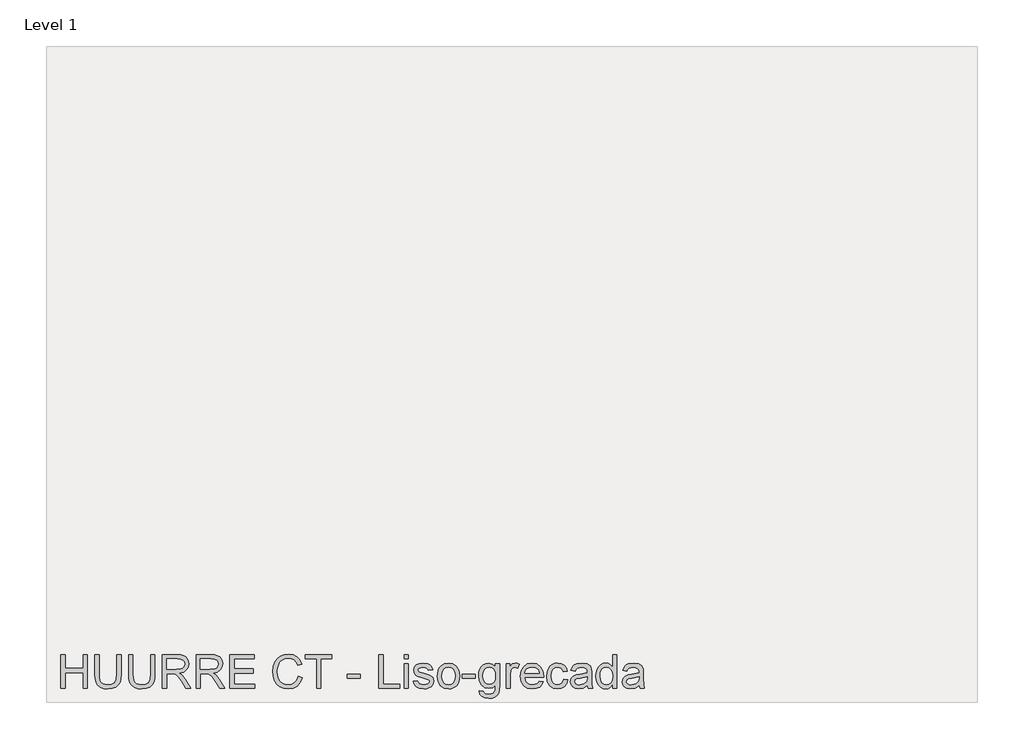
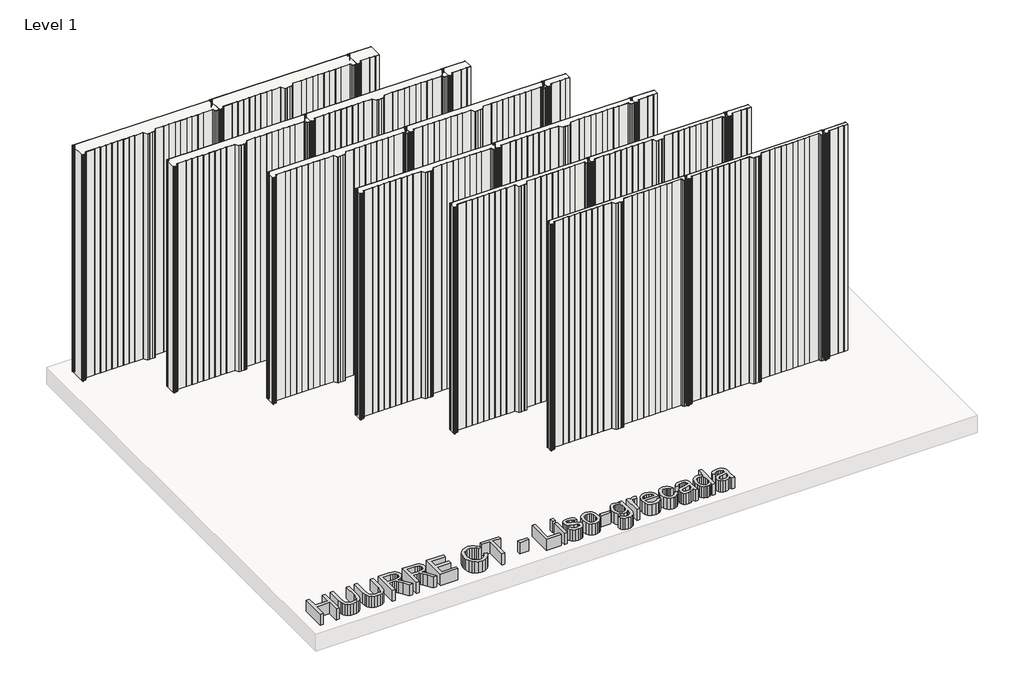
# One storey, part 2 of 2: 6 slabs, 1 proxy.
"""IFC4 building model written with IfcOpenShell, lengths in millimetres."""

from ifc_helpers import new_model, si_unit, origin, origin_with_axes, place, context, project, spatial, polyline, outline, extrude, transform, mapped, element, save
from components import hi_quadcore2_0ct_hi_quadcore_2_0_ct_120_liso_grecada_508893d8, hi_quadcore2_0ct_hi_quadcore_2_0_ct_120_liso_grecada_2a2bc950, hi_quadcore2_0ct_hi_quadcore_2_0_ct_120_liso_grecada_b9fa27ae, hi_quadcore2_0ct_hi_quadcore_2_0_ct_120_liso_grecada_d8a82dec, hi_quadcore2_0ct_hi_quadcore_2_0_ct_30_liso_grecada_8454063f, hi_quadcore2_0ct_hi_quadcore_2_0_ct_30_liso_grecada_a04230f8, hi_quadcore2_0ct_hi_quadcore_2_0_ct_30_liso_grecada_7c60fad7, hi_quadcore2_0ct_hi_quadcore_2_0_ct_30_liso_grecada_55503dc5, hi_quadcore2_0ct_hi_quadcore_2_0_ct_40_liso_grecada_d7bc8760, hi_quadcore2_0ct_hi_quadcore_2_0_ct_40_liso_grecada_3cf4d14c, hi_quadcore2_0ct_hi_quadcore_2_0_ct_40_liso_grecada_4fc66922, hi_quadcore2_0ct_hi_quadcore_2_0_ct_40_liso_grecada_08016a3a, hi_quadcore2_0ct_hi_quadcore_2_0_ct_50_liso_grecada_e1955714, hi_quadcore2_0ct_hi_quadcore_2_0_ct_50_liso_grecada_af61549e, hi_quadcore2_0ct_hi_quadcore_2_0_ct_50_liso_grecada_d0412549, hi_quadcore2_0ct_hi_quadcore_2_0_ct_50_liso_grecada_a40b4139, hi_quadcore2_0ct_hi_quadcore_2_0_ct_60_liso_grecada_41cce4d6, hi_quadcore2_0ct_hi_quadcore_2_0_ct_60_liso_grecada_c3092838, hi_quadcore2_0ct_hi_quadcore_2_0_ct_60_liso_grecada_371870d8, hi_quadcore2_0ct_hi_quadcore_2_0_ct_60_liso_grecada_84c94ab4, hi_quadcore2_0ct_hi_quadcore_2_0_ct_80_liso_grecada_a5f406dc, hi_quadcore2_0ct_hi_quadcore_2_0_ct_80_liso_grecada_12a7aa08, hi_quadcore2_0ct_hi_quadcore_2_0_ct_80_liso_grecada_cbc21f39, hi_quadcore2_0ct_hi_quadcore_2_0_ct_80_liso_grecada_df26bcd7

model = new_model("IFC4")

# Units and contexts
model_context = context("Model", 3, world=origin())
ifc_project = project(units=[si_unit("LENGTHUNIT", "METRE", prefix="MILLI")], contexts=[model_context])

# Site, building, storey
site = spatial("IfcSite", under=ifc_project)
building = spatial("IfcBuilding", under=site)
storey = spatial("IfcBuildingStorey", under=building, Name="Level 1", Elevation=0.0)

# Proxy
placement = place(None, origin())
element("IfcBuildingElementProxy", 1, Name="200mm Arial", ObjectType="200mm Arial", at=placement, inside=storey, context=model_context, shape_type="SweptSolid", body=[
    extrude(outline(polyline([(12680.8097426, 798.4307978), (12680.8097426, 999.3434181), (12705.9238201, 999.3434181), (12705.9238201, 917.7226661), (12812.6586497, 917.7226661), (12812.6586497, 999.3434181), (12837.7727272, 999.3434181), (12837.7727272, 798.4307978), (12812.6586497, 798.4307978), (12812.6586497, 892.6085886), (12705.9238201, 892.6085886), (12705.9238201, 798.4307978), (12680.8097426, 798.4307978)])), origin_with_axes(), (0.0, 0.0, 1.0), 100.0),
    extrude(outline(polyline([(13013.57127, 999.3434181), (13038.6853475, 999.3434181), (13038.6853475, 883.4360642), (13036.9808276, 856.2925043), (13031.8672679, 835.3906756), (13022.3145987, 819.2651815), (13007.2927506, 806.4506253), (12986.7649353, 798.0813099), (12960.6943645, 795.2915381), (12935.1940109, 797.7195593), (12914.807217, 805.0036228), (12899.5278515, 816.8923426), (12889.3497829, 833.1343327), (12883.6292179, 854.9190782), (12881.7223629, 883.4360642), (12881.7223629, 999.3434181), (12906.8364404, 999.3434181), (12906.8364404, 884.318981), (12908.0749765, 861.7494205), (12911.7905846, 846.034728), (12918.5228252, 835.1515523), (12928.8112583, 827.0765425), (12942.2266884, 822.0733474), (12958.3399198, 820.4056157), (12983.883193, 823.7042909), (13000.8670784, 833.6003165), (13010.3952221, 852.8773331), (13013.57127, 884.318981), (13013.57127, 999.3434181)])), origin_with_axes(), (0.0, 0.0, 1.0), 100.0),
    extrude(outline(polyline([(13214.4838903, 999.3434181), (13239.5979678, 999.3434181), (13239.5979678, 883.4360642), (13237.8934479, 856.2925043), (13232.7798882, 835.3906756), (13223.227219, 819.2651815), (13208.2053709, 806.4506253), (13187.6775556, 798.0813099), (13161.6069848, 795.2915381), (13136.1066312, 797.7195593), (13115.7198373, 805.0036228), (13100.4404718, 816.8923426), (13090.2624032, 833.1343327), (13084.5418382, 854.9190782), (13082.6349832, 883.4360642), (13082.6349832, 999.3434181), (13107.7490607, 999.3434181), (13107.7490607, 884.318981), (13108.9875968, 861.7494205), (13112.7032049, 846.034728), (13119.4354455, 835.1515523), (13129.7238786, 827.0765425), (13143.1393087, 822.0733474), (13159.2525401, 820.4056157), (13184.7958133, 823.7042909), (13201.7796987, 833.6003165), (13211.3078424, 852.8773331), (13214.4838903, 884.318981), (13214.4838903, 999.3434181)])), origin_with_axes(), (0.0, 0.0, 1.0), 100.0),
    extrude(outline(polyline([(13283.5476035, 798.4307978), (13283.5476035, 999.3434181), (13370.1224997, 999.3434181), (13393.3910359, 997.9883861), (13410.319739, 993.92329), (13422.6928368, 986.4184973), (13432.2945569, 974.7443754), (13438.4565803, 960.2682189), (13440.5105881, 944.3573226), (13437.1076797, 924.5652712), (13426.8989543, 908.1577342), (13409.5778437, 896.127993), (13384.8377795, 889.4693289), (13399.1116009, 878.7271746), (13419.467738, 852.8773331), (13452.969525, 798.4307978), (13423.7842201, 798.4307978), (13397.6400729, 840.0750397), (13378.7554639, 867.6416638), (13365.4871866, 880.6646865), (13353.5432844, 885.4471524), (13338.9751574, 886.3300692), (13308.661681, 886.3300692), (13308.661681, 798.4307978), (13283.5476035, 798.4307978)]), holes=[polyline([(13308.661681, 911.4441467), (13364.8740499, 911.4441467), (13393.5443201, 915.0003393), (13402.9743619, 919.6233898), (13409.8292297, 926.3801557), (13415.3965106, 943.4253548), (13412.7416288, 955.6758253), (13404.7769836, 965.5473255), (13391.0733793, 972.0588368), (13371.2016202, 974.2293406), (13308.661681, 974.2293406), (13308.661681, 911.4441467)])]), origin_with_axes(), (0.0, 0.0, 1.0), 100.0),
    extrude(outline(polyline([(13484.4602238, 798.4307978), (13484.4602238, 999.3434181), (13571.03512, 999.3434181), (13594.3036562, 997.9883861), (13611.2323593, 993.92329), (13623.6054571, 986.4184973), (13633.2071772, 974.7443754), (13639.3692006, 960.2682189), (13641.4232084, 944.3573226), (13638.0203, 924.5652712), (13627.8115746, 908.1577342), (13610.490464, 896.127993), (13585.7503998, 889.4693289), (13600.0242212, 878.7271746), (13620.3803583, 852.8773331), (13653.8821453, 798.4307978), (13624.6968404, 798.4307978), (13598.5526932, 840.0750397), (13579.6680842, 867.6416638), (13566.3998069, 880.6646865), (13554.4559047, 885.4471524), (13539.8877777, 886.3300692), (13509.5743013, 886.3300692), (13509.5743013, 798.4307978), (13484.4602238, 798.4307978)]), holes=[polyline([(13509.5743013, 911.4441467), (13565.7866702, 911.4441467), (13594.4569404, 915.0003393), (13603.8869822, 919.6233898), (13610.74185, 926.3801557), (13616.3091309, 943.4253548), (13613.6542491, 955.6758253), (13605.6896039, 965.5473255), (13591.9859996, 972.0588368), (13572.1142405, 974.2293406), (13509.5743013, 974.2293406), (13509.5743013, 911.4441467)])]), origin_with_axes(), (0.0, 0.0, 1.0), 100.0),
    extrude(outline(polyline([(13685.3728441, 798.4307978), (13685.3728441, 999.3434181), (13829.7787899, 999.3434181), (13829.7787899, 974.2293406), (13710.4869216, 974.2293406), (13710.4869216, 914.5834064), (13823.5002706, 914.5834064), (13823.5002706, 889.4693289), (13710.4869216, 889.4693289), (13710.4869216, 823.5448753), (13832.9180496, 823.5448753), (13832.9180496, 798.4307978), (13685.3728441, 798.4307978)])), origin_with_axes(), (0.0, 0.0, 1.0), 100.0),
    extrude(outline(polyline([(14090.3373444, 869.8489558), (14115.4514219, 863.3742327), (14103.8631391, 834.10922), (14085.6775058, 812.7291447), (14061.7897016, 799.6509398), (14033.0949059, 795.2915381), (14003.9647833, 798.5902133), (13980.8311372, 808.486239), (13963.099225, 824.6362586), (13950.1743042, 846.6969156), (13942.2832354, 872.6325962), (13939.6528792, 900.4076869), (13942.626592, 929.7033564), (13951.5477303, 955.001375), (13965.9503105, 975.4985335), (13985.3683484, 990.3916229), (14008.3977613, 999.4599141), (14033.6344662, 1002.4826778), (14061.1704335, 998.5708659), (14083.9361977, 986.8354303), (14101.2205201, 967.9998721), (14112.3121622, 942.7876927), (14087.1980847, 936.8034789), (14078.4915441, 955.1178709), (14066.596693, 967.6810411), (14051.3663784, 974.9467105), (14032.6534475, 977.3686003), (14011.0832999, 974.6830617), (13993.3636505, 966.626446), (13979.9175635, 954.0448818), (13971.1681034, 937.7844976), (13966.3672434, 919.4026606), (13964.7669567, 900.4567378), (13966.661549, 877.2556466), (13972.3453258, 857.1938152), (13982.032885, 841.0376642), (13995.9388244, 829.5536146), (14012.6100102, 822.6926154), (14030.5933084, 820.4056157), (14051.5564507, 823.5203499), (14069.0247141, 832.8645526), (14082.2132837, 848.3401218), (14090.3373444, 869.8489558)])), origin_with_axes(), (0.0, 0.0, 1.0), 100.0),
    extrude(outline(polyline([(14200.2114336, 798.4307978), (14200.2114336, 974.2293406), (14134.2869801, 974.2293406), (14134.2869801, 999.3434181), (14291.2499647, 999.3434181), (14291.2499647, 974.2293406), (14225.3255112, 974.2293406), (14225.3255112, 798.4307978), (14200.2114336, 798.4307978)])), origin_with_axes(), (0.0, 0.0, 1.0), 100.0),
    extrude(outline(polyline([(14382.2884958, 858.076732), (14382.2884958, 883.1908095), (14460.7699881, 883.1908095), (14460.7699881, 858.076732), (14382.2884958, 858.076732)])), origin_with_axes(), (0.0, 0.0, 1.0), 100.0),
    extrude(outline(polyline([(14570.6440773, 798.4307978), (14570.6440773, 999.3434181), (14595.7581548, 999.3434181), (14595.7581548, 823.5448753), (14696.214465, 823.5448753), (14696.214465, 798.4307978), (14570.6440773, 798.4307978)])), origin_with_axes(), (0.0, 0.0, 1.0), 100.0),
    extrude(outline(polyline([(14721.3285425, 974.2293406), (14721.3285425, 999.3434181), (14746.4426201, 999.3434181), (14746.4426201, 974.2293406), (14721.3285425, 974.2293406)])), origin_with_axes(), (0.0, 0.0, 1.0), 100.0),
    extrude(outline(polyline([(14721.3285425, 798.4307978), (14721.3285425, 945.9760033), (14746.4426201, 945.9760033), (14746.4426201, 798.4307978), (14721.3285425, 798.4307978)])), origin_with_axes(), (0.0, 0.0, 1.0), 100.0),
    extrude(outline(polyline([(14774.6959573, 842.3804335), (14799.8100348, 845.5196932), (14803.7708976, 834.7775389), (14811.4351059, 826.8803388), (14822.8517105, 822.0242964), (14838.0697623, 820.4056157), (14853.1038732, 821.8894064), (14863.6743492, 826.3407785), (14869.9283431, 832.7909762), (14872.0130077, 840.2712434), (14869.9160804, 846.6723901), (14863.6252982, 851.5529579), (14837.7754567, 858.7143941), (14799.9571876, 871.0016527), (14790.3861244, 877.1759389), (14783.4515488, 885.3490505), (14777.835217, 905.6070857), (14782.3479028, 924.3200166), (14794.6596869, 938.6183634), (14810.6257655, 946.0495797), (14832.2327013, 949.115263), (14862.7914324, 944.1856443), (14874.2202997, 938.3853715), (14882.2156017, 930.8437906), (14890.8485659, 908.304887), (14865.7344884, 905.1656273), (14862.5645718, 913.0689589), (14856.2921838, 919.0225158), (14834.1947386, 924.0011855), (14819.7737644, 922.8117004), (14810.1597816, 919.243245), (14804.7519163, 914.0928971), (14802.9492945, 908.1577342), (14805.9414014, 900.8491453), (14815.3101295, 895.3063899), (14836.9415909, 889.9598382), (14873.8033668, 878.1385634), (14890.9221423, 864.7476588), (14895.5758495, 854.9006841), (14897.1270853, 842.9199938), (14895.3060694, 830.5346333), (14889.8430218, 818.8850367), (14880.9464089, 808.8847778), (14868.8246971, 801.4474302), (14854.1829937, 796.8305111), (14837.7264058, 795.2915381), (14812.4038618, 798.2591195), (14793.9239229, 807.1618638), (14781.5876133, 821.9016691), (14774.6959573, 842.3804335)])), origin_with_axes(), (0.0, 0.0, 1.0), 100.0),
    extrude(outline(polyline([(14919.1019031, 872.2034006), (14924.5342939, 907.7775895), (14931.3247824, 921.6007555), (14940.8314663, 932.7813024), (14960.9668742, 945.0317729), (14985.0754076, 949.115263), (15011.458678, 944.1427247), (15032.532185, 929.2251098), (15046.3461539, 905.5396407), (15050.9508102, 874.2635397), (15048.9151965, 848.8919448), (15042.8083554, 829.5781401), (15032.8080965, 815.1142463), (15019.0922294, 804.2923843), (15002.8011884, 797.5417497), (14985.0754076, 795.2915381), (14958.3733061, 800.2456823), (14937.3243246, 815.1081149), (14923.6575085, 839.2902247), (14919.1019031, 872.2034006)]), holes=[polyline([(14944.2159807, 872.2524515), (14947.1222484, 849.5234756), (14955.8410517, 833.3305364), (14968.9621762, 823.6368458), (14985.0754076, 820.4056157), (15001.1150626, 823.6552399), (15014.2116616, 833.4041128), (15022.9304649, 849.8116498), (15025.8367327, 873.0372664), (15022.9120708, 895.1040548), (15014.1380852, 911.0762647), (15001.0230921, 920.7699553), (14985.0754076, 924.0011855), (14968.9621762, 920.782218), (14955.8410517, 911.1253157), (14947.1222484, 894.9691647), (14944.2159807, 872.2524515)])]), origin_with_axes(), (0.0, 0.0, 1.0), 100.0),
    extrude(outline(polyline([(15066.6471087, 858.076732), (15066.6471087, 883.1908095), (15145.128601, 883.1908095), (15145.128601, 858.076732), (15066.6471087, 858.076732)])), origin_with_axes(), (0.0, 0.0, 1.0), 100.0),
    extrude(outline(polyline([(15167.1034188, 785.873759), (15192.2174963, 782.7344993), (15194.988874, 774.8863501), (15200.3599512, 769.4907475), (15210.9181644, 765.2968928), (15224.7382647, 763.8989412), (15239.47807, 765.4808338), (15250.4409534, 770.2265115), (15258.043848, 777.8294061), (15262.7036866, 787.9829491), (15264.4204693, 817.266356), (15246.737608, 803.1396873), (15225.1797231, 798.4307978), (15199.286962, 803.9122395), (15179.9792886, 820.3565647), (15167.9679415, 844.4650981), (15163.9641591, 872.9391646), (15165.7606495, 893.2155939), (15171.1501208, 911.8610797), (15179.9425004, 927.6616113), (15191.9477162, 939.4031784), (15206.7549665, 946.6872419), (15223.9534498, 949.115263), (15246.3574633, 943.6215586), (15264.4204693, 927.1404452), (15264.4204693, 945.9760033), (15289.5345468, 945.9760033), (15289.5345468, 818.5907311), (15287.8177642, 789.1785656), (15282.6674162, 769.8095786), (15273.7953288, 756.9643656), (15260.9133276, 747.1235222), (15244.3034555, 740.8695283), (15224.2477554, 738.7848637), (15200.8811173, 741.7217883), (15182.4808862, 750.532562), (15170.6780055, 765.2417105), (15167.1034188, 785.873759)]), holes=[polyline([(15189.0782366, 874.6559472), (15191.7576438, 851.6204029), (15199.7958654, 835.7830831), (15211.880789, 826.6044273), (15226.700302, 823.5448753), (15241.4094505, 826.5860332), (15253.5556877, 835.7095067), (15261.7042739, 851.3444915), (15264.4204693, 873.9201832), (15261.6245661, 895.692666), (15253.2368566, 911.3705703), (15240.9128098, 920.8435317), (15226.3078946, 924.0011855), (15211.9666281, 920.8925826), (15199.9430182, 911.5667741), (15191.794432, 896.1218616), (15189.0782366, 874.6559472)])]), origin_with_axes(), (0.0, 0.0, 1.0), 100.0),
    extrude(outline(polyline([(15327.2056631, 798.4307978), (15327.2056631, 945.9760033), (15349.180481, 945.9760033), (15349.180481, 924.1483383), (15364.7786775, 944.2592207), (15380.474976, 949.115263), (15392.9829638, 947.1777512), (15405.6871554, 941.3652157), (15397.2994459, 918.8508376), (15379.6411102, 924.0011855), (15365.4408651, 919.0470413), (15356.3909681, 905.3127801), (15352.3197406, 875.9803224), (15352.3197406, 798.4307978), (15327.2056631, 798.4307978)])), origin_with_axes(), (0.0, 0.0, 1.0), 100.0),
    extrude(outline(polyline([(15524.6847181, 842.3804335), (15549.3082863, 839.2411738), (15540.4361989, 820.6876585), (15526.2788734, 806.8185073), (15507.155141, 798.1732804), (15483.3838328, 795.2915381), (15453.916485, 800.2640764), (15431.2426913, 815.1816913), (15416.7849289, 839.0756269), (15411.9656748, 870.9771273), (15416.8339799, 903.9516168), (15431.4388951, 928.6119732), (15453.8061204, 943.9894406), (15481.9613557, 949.115263), (15509.2398057, 944.0017033), (15531.0368139, 928.6610241), (15545.3290294, 904.0497186), (15550.0931012, 871.1242801), (15549.9459485, 864.3552513), (15437.0797523, 864.3552513), (15441.4268912, 845.5564814), (15451.525252, 831.7363811), (15466.0995104, 823.238307), (15483.8743421, 820.4056157), (15508.4979103, 825.6540655), (15517.6459093, 832.4598824), (15524.6847181, 842.3804335)]), holes=[polyline([(15437.0797523, 889.4693289), (15524.9790237, 889.4693289), (15521.5822466, 902.7376062), (15514.9235825, 912.2289617), (15500.2818791, 921.0581295), (15481.8632539, 924.0011855), (15464.9345507, 921.6528721), (15450.9366408, 914.6079319), (15441.206162, 903.6266543), (15437.0797523, 889.4693289)])]), origin_with_axes(), (0.0, 0.0, 1.0), 100.0),
    extrude(outline(polyline([(15669.3849696, 851.7982126), (15694.4990471, 848.6589529), (15687.4970264, 826.3223844), (15674.3391138, 809.4427322), (15656.2638451, 798.8293366), (15634.5097564, 795.2915381), (15607.7953922, 800.2272882), (15586.9058262, 815.0345385), (15573.4229511, 839.0633642), (15568.9286594, 871.6638403), (15570.8477771, 894.0126715), (15576.6051304, 913.3816586), (15586.2926896, 929.0227747), (15600.0024253, 940.1879933), (15616.4038309, 946.8834456), (15634.1663999, 949.115263), (15655.3870596, 946.0495797), (15672.352551, 936.8525299), (15684.5233137, 922.0146227), (15691.3597874, 902.0263677), (15666.2457099, 898.887108), (15661.6901045, 909.8438601), (15654.5961133, 917.6981406), (15645.3561439, 922.4254243), (15634.3626036, 924.0011855), (15618.1328763, 920.898714), (15605.2508751, 911.5912995), (15596.8447715, 895.57617), (15594.0427369, 872.3505534), (15596.7834578, 848.8122371), (15605.0056204, 832.7419252), (15617.6546297, 823.489693), (15633.6758906, 820.4056157), (15646.6805191, 822.3308648), (15657.3429656, 828.1066121), (15665.0991443, 837.8800104), (15669.3849696, 851.7982126)])), origin_with_axes(), (0.0, 0.0, 1.0), 100.0),
    extrude(outline(polyline([(15810.6516557, 817.266356), (15786.2978676, 800.2456823), (15759.393431, 795.2915381), (15738.4057632, 798.2713823), (15722.9240626, 807.2109148), (15713.3775248, 820.7857604), (15710.1953456, 837.671544), (15715.002337, 857.5371717), (15727.6329521, 871.9581459), (15745.2177115, 880.1987026), (15766.9472747, 883.9756244), (15810.5045029, 892.6085886), (15810.6516557, 898.2003949), (15808.9226103, 909.408533), (15803.7354742, 916.7416475), (15792.1349286, 922.186301), (15775.9726463, 924.0011855), (15761.0121118, 922.7933063), (15750.5642632, 919.1696686), (15743.4396152, 912.4680849), (15738.4486828, 902.0263677), (15713.3346052, 905.1656273), (15724.1993868, 929.6910937), (15733.4577504, 937.9439131), (15746.0761028, 944.063017), (15779.2100078, 949.115263), (15809.6461116, 944.6516282), (15826.8384635, 933.44349), (15834.5394599, 916.3982909), (15835.7657332, 894.4234731), (15835.7657332, 863.178029), (15837.0410575, 819.5472243), (15842.0442526, 798.4307978), (15816.9301751, 798.4307978), (15810.6516557, 817.266356)]), holes=[polyline([(15810.6516557, 867.494511), (15770.1355853, 859.7935146), (15748.5286494, 855.7222872), (15738.7429884, 849.1004113), (15735.3094231, 839.4373775), (15737.1794899, 831.969373), (15742.7896903, 825.8502692), (15752.017397, 821.766779), (15764.7399827, 820.4056157), (15778.2289892, 821.9078005), (15790.1483658, 826.4143549), (15806.5313774, 840.9579565), (15810.5045029, 860.3821258), (15810.6516557, 867.494511)])]), origin_with_axes(), (0.0, 0.0, 1.0), 100.0),
    extrude(outline(polyline([(15961.3361209, 798.4307978), (15961.3361209, 822.1223983), (15953.8221312, 810.383897), (15944.7201175, 801.9992532), (15934.0300798, 796.9684669), (15921.7520182, 795.2915381), (15905.5161595, 797.7195593), (15890.6537269, 805.0036228), (15878.0721627, 816.6348252), (15868.6789091, 832.1042631), (15862.8295853, 850.7865371), (15860.8798108, 872.0562478), (15862.6763012, 893.0623097), (15868.0657724, 912.0327579), (15877.0420931, 927.8884719), (15889.5991319, 939.5503312), (15904.7865269, 946.7240301), (15921.6539164, 949.115263), (15933.941175, 947.4046118), (15944.8059566, 942.2726579), (15961.3361209, 924.4916948), (15961.3361209, 999.3434181), (15986.4501985, 999.3434181), (15986.4501985, 798.4307978), (15961.3361209, 798.4307978)]), holes=[polyline([(15885.9938883, 872.1543496), (15888.8265797, 849.4376364), (15897.3246538, 833.2814855), (15909.6732261, 823.6245831), (15924.0574121, 820.4056157), (15938.4354667, 823.4774303), (15950.4713393, 832.6928743), (15958.6199255, 848.2236259), (15961.3361209, 870.2413633), (15958.5708746, 894.3131085), (15950.2751356, 911.0026883), (15937.9326947, 920.7515612), (15923.0273425, 924.0011855), (15908.4960037, 920.8803199), (15896.5888898, 911.5177231), (15888.6426387, 895.4351486), (15885.9938883, 872.1543496)])]), origin_with_axes(), (0.0, 0.0, 1.0), 100.0),
    extrude(outline(polyline([(16118.2991055, 817.266356), (16093.9453175, 800.2456823), (16067.0408809, 795.2915381), (16046.053213, 798.2713823), (16030.5715124, 807.2109148), (16021.0249746, 820.7857604), (16017.8427954, 837.671544), (16022.6497868, 857.5371717), (16035.280402, 871.9581459), (16052.8651613, 880.1987026), (16074.5947245, 883.9756244), (16118.1519527, 892.6085886), (16118.2991055, 898.2003949), (16116.5700602, 909.408533), (16111.382924, 916.7416475), (16099.7823784, 922.186301), (16083.6200961, 924.0011855), (16068.6595617, 922.7933063), (16058.211713, 919.1696686), (16051.087065, 912.4680849), (16046.0961326, 902.0263677), (16020.9820551, 905.1656273), (16031.8468367, 929.6910937), (16041.1052002, 937.9439131), (16053.7235526, 944.063017), (16086.8574577, 949.115263), (16117.2935614, 944.6516282), (16134.4859133, 933.44349), (16142.1869098, 916.3982909), (16143.4131831, 894.4234731), (16143.4131831, 863.178029), (16144.6885073, 819.5472243), (16149.6917025, 798.4307978), (16124.5776249, 798.4307978), (16118.2991055, 817.266356)]), holes=[polyline([(16118.2991055, 867.494511), (16077.7830351, 859.7935146), (16056.1760993, 855.7222872), (16046.3904382, 849.1004113), (16042.9568729, 839.4373775), (16044.8269397, 831.969373), (16050.4371402, 825.8502692), (16059.6648469, 821.766779), (16072.3874325, 820.4056157), (16085.876439, 821.9078005), (16097.7958157, 826.4143549), (16114.1788272, 840.9579565), (16118.1519527, 860.3821258), (16118.2991055, 867.494511)])]), origin_with_axes(), (0.0, 0.0, 1.0), 100.0),
])

# Slabs
hi_quadcore2_0ct_hi_quadcore_2_0_ct_120_liso_grecada_shape = hi_quadcore2_0ct_hi_quadcore_2_0_ct_120_liso_grecada_508893d8(model_context)
hi_quadcore2_0ct_hi_quadcore_2_0_ct_120_liso_grecada_2_shape = hi_quadcore2_0ct_hi_quadcore_2_0_ct_120_liso_grecada_2a2bc950(model_context)
hi_quadcore2_0ct_hi_quadcore_2_0_ct_120_liso_grecada_3_shape = hi_quadcore2_0ct_hi_quadcore_2_0_ct_120_liso_grecada_b9fa27ae(model_context)
hi_quadcore2_0ct_hi_quadcore_2_0_ct_120_liso_grecada_4_shape = hi_quadcore2_0ct_hi_quadcore_2_0_ct_120_liso_grecada_d8a82dec(model_context)
element("IfcSlab", 2, ObjectType="HI_QuadCore2.0CT : HI-Quadcore 2.0 CT 120 liso-grecada", at=placement, inside=storey, context=model_context, shape_type="MappedRepresentation", body=[
    mapped(hi_quadcore2_0ct_hi_quadcore_2_0_ct_120_liso_grecada_shape, transform((12730.1790329, 4476.8251299, 0.0), x_axis=(1.0, 0.0, 0.0), y_axis=(0.0, 0.0, 1.0), z_axis=(0.0, -1.0, 0.0))),
    mapped(hi_quadcore2_0ct_hi_quadcore_2_0_ct_120_liso_grecada_2_shape, transform((12730.1790329, 4476.8251299, 0.0), x_axis=(1.0, 0.0, 0.0), y_axis=(0.0, 0.0, 1.0), z_axis=(0.0, -1.0, 0.0))),
    mapped(hi_quadcore2_0ct_hi_quadcore_2_0_ct_120_liso_grecada_3_shape, transform((12730.1790329, 4476.8251299, 0.0), x_axis=(1.0, 0.0, 0.0), y_axis=(0.0, 0.0, 1.0), z_axis=(0.0, -1.0, 0.0))),
    mapped(hi_quadcore2_0ct_hi_quadcore_2_0_ct_120_liso_grecada_4_shape, transform((12730.1790329, 4476.8251299, 0.0), x_axis=(1.0, 0.0, 0.0), y_axis=(0.0, 0.0, 1.0), z_axis=(0.0, -1.0, 0.0))),
])
hi_quadcore2_0ct_hi_quadcore_2_0_ct_30_liso_grecada_shape = hi_quadcore2_0ct_hi_quadcore_2_0_ct_30_liso_grecada_8454063f(model_context)
hi_quadcore2_0ct_hi_quadcore_2_0_ct_30_liso_grecada_2_shape = hi_quadcore2_0ct_hi_quadcore_2_0_ct_30_liso_grecada_a04230f8(model_context)
hi_quadcore2_0ct_hi_quadcore_2_0_ct_30_liso_grecada_3_shape = hi_quadcore2_0ct_hi_quadcore_2_0_ct_30_liso_grecada_7c60fad7(model_context)
hi_quadcore2_0ct_hi_quadcore_2_0_ct_30_liso_grecada_4_shape = hi_quadcore2_0ct_hi_quadcore_2_0_ct_30_liso_grecada_55503dc5(model_context)
element("IfcSlab", 3, ObjectType="HI_QuadCore2.0CT : HI-Quadcore 2.0 CT 30 liso-grecada", at=placement, inside=storey, context=model_context, shape_type="MappedRepresentation", body=[
    mapped(hi_quadcore2_0ct_hi_quadcore_2_0_ct_30_liso_grecada_shape, transform((15230.1790329, 1928.6255724, 0.0), x_axis=(1.0, 0.0, 0.0), y_axis=(0.0, 0.0, 1.0), z_axis=(0.0, -1.0, 0.0))),
    mapped(hi_quadcore2_0ct_hi_quadcore_2_0_ct_30_liso_grecada_2_shape, transform((15230.1790329, 1928.6255724, 0.0), x_axis=(1.0, 0.0, 0.0), y_axis=(0.0, 0.0, 1.0), z_axis=(0.0, -1.0, 0.0))),
    mapped(hi_quadcore2_0ct_hi_quadcore_2_0_ct_30_liso_grecada_3_shape, transform((15230.1790329, 1928.6255724, 0.0), x_axis=(1.0, 0.0, 0.0), y_axis=(0.0, 0.0, 1.0), z_axis=(0.0, -1.0, 0.0))),
    mapped(hi_quadcore2_0ct_hi_quadcore_2_0_ct_30_liso_grecada_4_shape, transform((15230.1790329, 1928.6255724, 0.0), x_axis=(1.0, 0.0, 0.0), y_axis=(0.0, 0.0, 1.0), z_axis=(0.0, -1.0, 0.0))),
])
hi_quadcore2_0ct_hi_quadcore_2_0_ct_40_liso_grecada_shape = hi_quadcore2_0ct_hi_quadcore_2_0_ct_40_liso_grecada_d7bc8760(model_context)
hi_quadcore2_0ct_hi_quadcore_2_0_ct_40_liso_grecada_2_shape = hi_quadcore2_0ct_hi_quadcore_2_0_ct_40_liso_grecada_3cf4d14c(model_context)
hi_quadcore2_0ct_hi_quadcore_2_0_ct_40_liso_grecada_3_shape = hi_quadcore2_0ct_hi_quadcore_2_0_ct_40_liso_grecada_4fc66922(model_context)
hi_quadcore2_0ct_hi_quadcore_2_0_ct_40_liso_grecada_4_shape = hi_quadcore2_0ct_hi_quadcore_2_0_ct_40_liso_grecada_08016a3a(model_context)
element("IfcSlab", 4, ObjectType="HI_QuadCore2.0CT : HI-Quadcore 2.0 CT 40 liso-grecada", at=placement, inside=storey, context=model_context, shape_type="MappedRepresentation", body=[
    mapped(hi_quadcore2_0ct_hi_quadcore_2_0_ct_40_liso_grecada_shape, transform((14730.1790329, 2476.8250149, 0.0), x_axis=(1.0, 0.0, 0.0), y_axis=(0.0, 0.0, 1.0), z_axis=(0.0, -1.0, 0.0))),
    mapped(hi_quadcore2_0ct_hi_quadcore_2_0_ct_40_liso_grecada_2_shape, transform((14730.1790329, 2476.8250149, 0.0), x_axis=(1.0, 0.0, 0.0), y_axis=(0.0, 0.0, 1.0), z_axis=(0.0, -1.0, 0.0))),
    mapped(hi_quadcore2_0ct_hi_quadcore_2_0_ct_40_liso_grecada_3_shape, transform((14730.1790329, 2476.8250149, 0.0), x_axis=(1.0, 0.0, 0.0), y_axis=(0.0, 0.0, 1.0), z_axis=(0.0, -1.0, 0.0))),
    mapped(hi_quadcore2_0ct_hi_quadcore_2_0_ct_40_liso_grecada_4_shape, transform((14730.1790329, 2476.8250149, 0.0), x_axis=(1.0, 0.0, 0.0), y_axis=(0.0, 0.0, 1.0), z_axis=(0.0, -1.0, 0.0))),
])
hi_quadcore2_0ct_hi_quadcore_2_0_ct_50_liso_grecada_shape = hi_quadcore2_0ct_hi_quadcore_2_0_ct_50_liso_grecada_e1955714(model_context)
hi_quadcore2_0ct_hi_quadcore_2_0_ct_50_liso_grecada_2_shape = hi_quadcore2_0ct_hi_quadcore_2_0_ct_50_liso_grecada_af61549e(model_context)
hi_quadcore2_0ct_hi_quadcore_2_0_ct_50_liso_grecada_3_shape = hi_quadcore2_0ct_hi_quadcore_2_0_ct_50_liso_grecada_d0412549(model_context)
hi_quadcore2_0ct_hi_quadcore_2_0_ct_50_liso_grecada_4_shape = hi_quadcore2_0ct_hi_quadcore_2_0_ct_50_liso_grecada_a40b4139(model_context)
element("IfcSlab", 5, ObjectType="HI_QuadCore2.0CT : HI-Quadcore 2.0 CT 50 liso-grecada", at=placement, inside=storey, context=model_context, shape_type="MappedRepresentation", body=[
    mapped(hi_quadcore2_0ct_hi_quadcore_2_0_ct_50_liso_grecada_shape, transform((14230.1790329, 2976.8250149, 0.0), x_axis=(1.0, 0.0, 0.0), y_axis=(0.0, 0.0, 1.0), z_axis=(0.0, -1.0, 0.0))),
    mapped(hi_quadcore2_0ct_hi_quadcore_2_0_ct_50_liso_grecada_2_shape, transform((14230.1790329, 2976.8250149, 0.0), x_axis=(1.0, 0.0, 0.0), y_axis=(0.0, 0.0, 1.0), z_axis=(0.0, -1.0, 0.0))),
    mapped(hi_quadcore2_0ct_hi_quadcore_2_0_ct_50_liso_grecada_3_shape, transform((14230.1790329, 2976.8250149, 0.0), x_axis=(1.0, 0.0, 0.0), y_axis=(0.0, 0.0, 1.0), z_axis=(0.0, -1.0, 0.0))),
    mapped(hi_quadcore2_0ct_hi_quadcore_2_0_ct_50_liso_grecada_4_shape, transform((14230.1790329, 2976.8250149, 0.0), x_axis=(1.0, 0.0, 0.0), y_axis=(0.0, 0.0, 1.0), z_axis=(0.0, -1.0, 0.0))),
])
hi_quadcore2_0ct_hi_quadcore_2_0_ct_60_liso_grecada_shape = hi_quadcore2_0ct_hi_quadcore_2_0_ct_60_liso_grecada_41cce4d6(model_context)
hi_quadcore2_0ct_hi_quadcore_2_0_ct_60_liso_grecada_2_shape = hi_quadcore2_0ct_hi_quadcore_2_0_ct_60_liso_grecada_c3092838(model_context)
hi_quadcore2_0ct_hi_quadcore_2_0_ct_60_liso_grecada_3_shape = hi_quadcore2_0ct_hi_quadcore_2_0_ct_60_liso_grecada_371870d8(model_context)
hi_quadcore2_0ct_hi_quadcore_2_0_ct_60_liso_grecada_4_shape = hi_quadcore2_0ct_hi_quadcore_2_0_ct_60_liso_grecada_84c94ab4(model_context)
element("IfcSlab", 6, ObjectType="HI_QuadCore2.0CT : HI-Quadcore 2.0 CT 60 liso-grecada", at=placement, inside=storey, context=model_context, shape_type="MappedRepresentation", body=[
    mapped(hi_quadcore2_0ct_hi_quadcore_2_0_ct_60_liso_grecada_shape, transform((13780.1790329, 3476.8251299, 0.0), x_axis=(1.0, 0.0, 0.0), y_axis=(0.0, 0.0, 1.0), z_axis=(0.0, -1.0, 0.0))),
    mapped(hi_quadcore2_0ct_hi_quadcore_2_0_ct_60_liso_grecada_2_shape, transform((13780.1790329, 3476.8251299, 0.0), x_axis=(1.0, 0.0, 0.0), y_axis=(0.0, 0.0, 1.0), z_axis=(0.0, -1.0, 0.0))),
    mapped(hi_quadcore2_0ct_hi_quadcore_2_0_ct_60_liso_grecada_3_shape, transform((13780.1790329, 3476.8251299, 0.0), x_axis=(1.0, 0.0, 0.0), y_axis=(0.0, 0.0, 1.0), z_axis=(0.0, -1.0, 0.0))),
    mapped(hi_quadcore2_0ct_hi_quadcore_2_0_ct_60_liso_grecada_4_shape, transform((13780.1790329, 3476.8251299, 0.0), x_axis=(1.0, 0.0, 0.0), y_axis=(0.0, 0.0, 1.0), z_axis=(0.0, -1.0, 0.0))),
])
hi_quadcore2_0ct_hi_quadcore_2_0_ct_80_liso_grecada_shape = hi_quadcore2_0ct_hi_quadcore_2_0_ct_80_liso_grecada_a5f406dc(model_context)
hi_quadcore2_0ct_hi_quadcore_2_0_ct_80_liso_grecada_2_shape = hi_quadcore2_0ct_hi_quadcore_2_0_ct_80_liso_grecada_12a7aa08(model_context)
hi_quadcore2_0ct_hi_quadcore_2_0_ct_80_liso_grecada_3_shape = hi_quadcore2_0ct_hi_quadcore_2_0_ct_80_liso_grecada_cbc21f39(model_context)
hi_quadcore2_0ct_hi_quadcore_2_0_ct_80_liso_grecada_4_shape = hi_quadcore2_0ct_hi_quadcore_2_0_ct_80_liso_grecada_df26bcd7(model_context)
element("IfcSlab", 7, ObjectType="HI_QuadCore2.0CT : HI-Quadcore 2.0 CT 80 liso-grecada", at=placement, inside=storey, context=model_context, shape_type="MappedRepresentation", body=[
    mapped(hi_quadcore2_0ct_hi_quadcore_2_0_ct_80_liso_grecada_shape, transform((13230.1790329, 3976.8251299, 0.0), x_axis=(1.0, 0.0, 0.0), y_axis=(0.0, 0.0, 1.0), z_axis=(0.0, -1.0, 0.0))),
    mapped(hi_quadcore2_0ct_hi_quadcore_2_0_ct_80_liso_grecada_2_shape, transform((13230.1790329, 3976.8251299, 0.0), x_axis=(1.0, 0.0, 0.0), y_axis=(0.0, 0.0, 1.0), z_axis=(0.0, -1.0, 0.0))),
    mapped(hi_quadcore2_0ct_hi_quadcore_2_0_ct_80_liso_grecada_3_shape, transform((13230.1790329, 3976.8251299, 0.0), x_axis=(1.0, 0.0, 0.0), y_axis=(0.0, 0.0, 1.0), z_axis=(0.0, -1.0, 0.0))),
    mapped(hi_quadcore2_0ct_hi_quadcore_2_0_ct_80_liso_grecada_4_shape, transform((13230.1790329, 3976.8251299, 0.0), x_axis=(1.0, 0.0, 0.0), y_axis=(0.0, 0.0, 1.0), z_axis=(0.0, -1.0, 0.0))),
])

save(model, "model.ifc")
